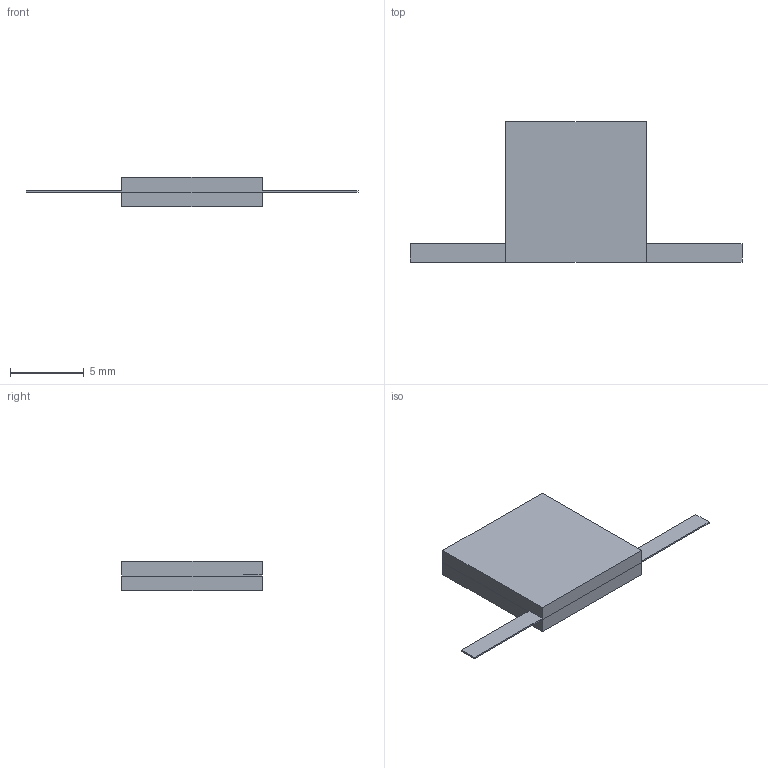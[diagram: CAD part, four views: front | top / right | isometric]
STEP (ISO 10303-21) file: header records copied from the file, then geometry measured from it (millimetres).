
FILE_DESCRIPTION(('STEP AP203'), '1');
FILE_NAME('ÏÐ1-22-100-2', '', ('UNSPECIFIED'), ('UNSPECIFIED'), 'C3D Converter', 'C3D Toolkit', '');
FILE_SCHEMA(('CONFIG_CONTROL_DESIGN'));
Length unit declared in the file: millimetre
Bounding box: 22.5 x 9.5 x 2 mm (x, y, z)
Volume: 182.1 mm3; surface area: 472.6 mm2
Topology: 4 solids, 4 shells, 24 faces, 48 edges, 32 vertices
Faces by surface type: plane 22, extrusion 2
Entity records: 855 total; most frequent: CARTESIAN_POINT 113, ORIENTED_EDGE 96, DIRECTION 92, EDGE_CURVE 48, VECTOR 46, LINE 44, VERTEX_POINT 30, COLOUR_RGB 28
